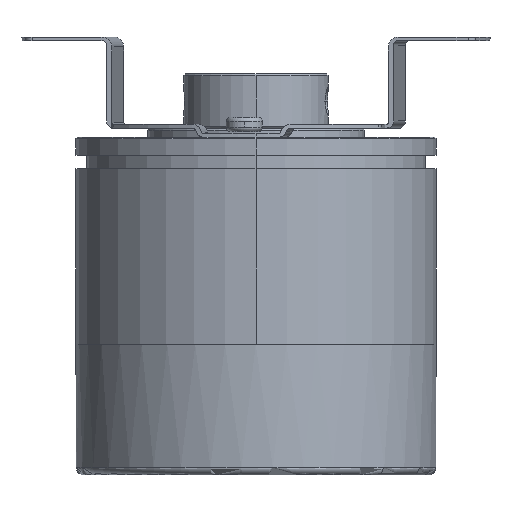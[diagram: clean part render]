
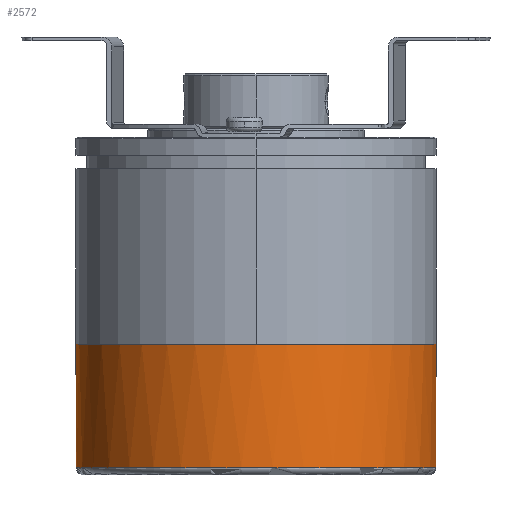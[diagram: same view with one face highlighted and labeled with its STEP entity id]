
A CAD part, left-side view. The second image highlights one B-rep face of the part: STEP entity #2572.
In plain terms, the highlighted cylindrical face has radius 20 mm (diameter 40 mm), a partial arc.
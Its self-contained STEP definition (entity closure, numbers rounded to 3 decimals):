
#2572=ADVANCED_FACE('',(#3267),#3031,.T.);
#3031=CYLINDRICAL_SURFACE('',#11644,20.);
#3267=FACE_OUTER_BOUND('',#3725,.T.);
#3725=EDGE_LOOP('',(#5559,#5560,#5561,#5562,#5563,#5564));
#4304=LINE('',#17347,#4659);
#4305=LINE('',#17351,#4660);
#4659=VECTOR('',#13514,1.);
#4660=VECTOR('',#13517,1.);
#5559=ORIENTED_EDGE('',*,*,#9144,.T.);
#5560=ORIENTED_EDGE('',*,*,#9145,.T.);
#5561=ORIENTED_EDGE('',*,*,#9072,.T.);
#5562=ORIENTED_EDGE('',*,*,#9076,.T.);
#5563=ORIENTED_EDGE('',*,*,#9146,.T.);
#5564=ORIENTED_EDGE('',*,*,#9147,.T.);
#7576=VERTEX_POINT('',#17121);
#7577=VERTEX_POINT('',#17122);
#7580=VERTEX_POINT('',#17133);
#7646=VERTEX_POINT('',#17348);
#7647=VERTEX_POINT('',#17349);
#7648=VERTEX_POINT('',#17352);
#9072=EDGE_CURVE('',#7576,#7577,#10578,.T.);
#9076=EDGE_CURVE('',#7577,#7580,#10581,.T.);
#9144=EDGE_CURVE('',#7646,#7647,#4304,.T.);
#9145=EDGE_CURVE('',#7647,#7576,#10610,.T.);
#9146=EDGE_CURVE('',#7580,#7648,#4305,.T.);
#9147=EDGE_CURVE('',#7648,#7646,#10611,.T.);
#10578=CIRCLE('',#11594,20.);
#10581=CIRCLE('',#11598,20.);
#10610=CIRCLE('',#11642,20.);
#10611=CIRCLE('',#11643,20.);
#11594=AXIS2_PLACEMENT_3D('',#17120,#13386,#13387);
#11598=AXIS2_PLACEMENT_3D('',#17132,#13394,#13395);
#11642=AXIS2_PLACEMENT_3D('',#17350,#13515,#13516);
#11643=AXIS2_PLACEMENT_3D('',#17353,#13518,#13519);
#11644=AXIS2_PLACEMENT_3D('',#17354,#13520,#13521);
#13386=DIRECTION('',(0.,0.,1.));
#13387=DIRECTION('',(1.,0.,0.));
#13394=DIRECTION('',(0.,0.,1.));
#13395=DIRECTION('',(1.,0.,0.));
#13514=DIRECTION('',(0.,0.,-1.));
#13515=DIRECTION('',(0.,0.,1.));
#13516=DIRECTION('',(1.,0.,0.));
#13517=DIRECTION('',(0.,0.,1.));
#13518=DIRECTION('',(0.,0.,-1.));
#13519=DIRECTION('',(1.,0.,0.));
#13520=DIRECTION('',(0.,0.,1.));
#13521=DIRECTION('',(1.,0.,0.));
#17120=CARTESIAN_POINT('',(20.,20.,-43.7));
#17121=CARTESIAN_POINT('',(21.614,39.935,-43.7));
#17122=CARTESIAN_POINT('',(18.386,0.065,-43.7));
#17132=CARTESIAN_POINT('',(20.,20.,-43.7));
#17133=CARTESIAN_POINT('',(38.383,12.123,-43.7));
#17347=CARTESIAN_POINT('',(39.472,24.565,-44.5));
#17348=CARTESIAN_POINT('',(39.472,24.565,-30.));
#17349=CARTESIAN_POINT('',(39.472,24.565,-43.7));
#17350=CARTESIAN_POINT('',(20.,20.,-43.7));
#17351=CARTESIAN_POINT('',(38.383,12.123,-44.5));
#17352=CARTESIAN_POINT('',(38.383,12.123,-30.));
#17353=CARTESIAN_POINT('',(20.,20.,-30.));
#17354=CARTESIAN_POINT('',(20.,20.,-44.5));
